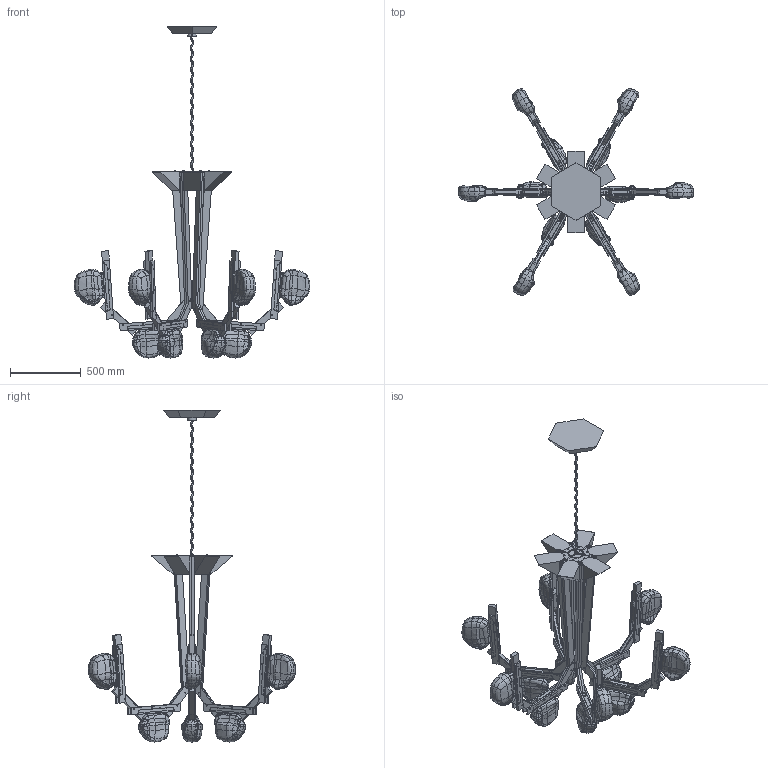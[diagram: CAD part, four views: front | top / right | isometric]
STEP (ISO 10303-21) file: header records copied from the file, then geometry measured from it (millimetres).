
FILE_DESCRIPTION(/* description */ (''),/* implementation_level */ '2;1');
FILE_NAME(/* name */ 'D:\Users\boris.ha\Desktop\Collections\Fungo\Fungo L\Fungo L.stp',/* time_stamp */ '2017-11-14T11:20:41+01:00',/* author */ ('boris.ha'),/* organization */ (''),/* preprocessor_version */ 'ST-DEVELOPER v16.13',/* originating_system */ 'Autodesk Inventor 2018',/* authorisation */ '');
FILE_SCHEMA (('AUTOMOTIVE_DESIGN { 1 0 10303 214 3 1 1 }'));
Products named in the file (1): Fungo L
Bounding box: 1661.56 x 1460.21 x 2340.13 mm (x, y, z)
Volume: 78141023.5 mm3; surface area: 6903080.6 mm2
Topology: 140 solids, 140 shells, 3839 faces, 9270 edges, 5694 vertices
Faces by surface type: plane 1499, bspline 1181, cylinder 929, cone 161, torus 69
Full cylindrical faces by diameter (mm): 3.5 x6, 4 x14, 4.4 x6, 5 x12, 5.5 x6, 6 x10, 7.6 x2, 8 x258, 9.2 x6, 10 x24, 10.5 x7, 30 x1, 35 x1, 63 x1, 100 x1
Entity records: 151590 total; most frequent: CARTESIAN_POINT 67537, ORIENTED_EDGE 17396, DIRECTION 13602, EDGE_CURVE 8698, VERTEX_POINT 5661, EDGE_LOOP 4963, AXIS2_PLACEMENT_3D 4828, STYLED_ITEM 3979
